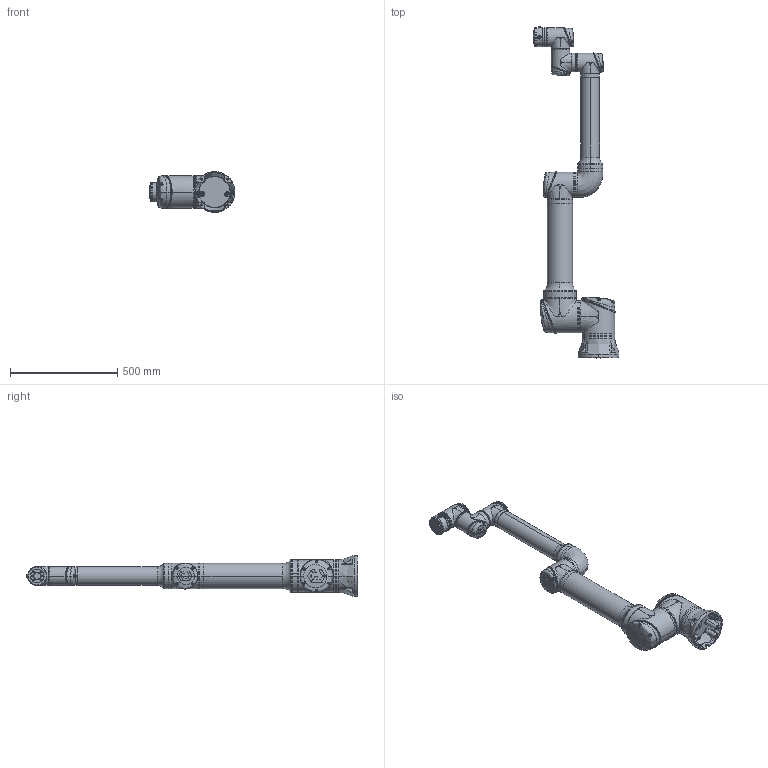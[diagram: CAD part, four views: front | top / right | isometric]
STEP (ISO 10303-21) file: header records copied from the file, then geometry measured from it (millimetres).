
FILE_DESCRIPTION (( 'STEP AP203' ), '1' );
FILE_NAME ('CS_掛极CS612F_V1.1.STEP', '2026-07-27T05:45:13', ( '' ), ( '' ), 'SwSTEP 2.0', 'SolidWorks 2017', '' );
FILE_SCHEMA (( 'CONFIG_CONTROL_DESIGN' ));
Length unit declared in the file: millimetre
Products named in the file (8): CS_掛极CS612F_V1.1; CS612F-J6; CS612F-J5; CS612F-J2_Link1_J3; CS612F-Link2A_Link2B_J4; CS612F-J1; CS612F-Base; CS612F藺傷
Assembly tree (7 placements, depth 2):
  CS_掛极CS612F_V1.1
    CS612F-Base
    CS612F-J1
    CS612F-J2_Link1_J3
    CS612F-Link2A_Link2B_J4
    CS612F-J5
    CS612F-J6
    CS612F藺傷
Bounding box: 401.18 x 1549.5 x 189.7 mm (x, y, z)
Volume: 22379848.4 mm3; surface area: 1415935.9 mm2
Topology: 81 solids, 94 shells, 5434 faces, 12932 edges, 7690 vertices
Faces by surface type: bspline 2020, plane 1405, cylinder 1085, cone 393, torus 326, sphere 205
Entity records: 443935 total; most frequent: CARTESIAN_POINT 335259, ORIENTED_EDGE 25274, DIRECTION 18717, EDGE_CURVE 12637, AXIS2_PLACEMENT_3D 7903, VERTEX_POINT 7644, EDGE_LOOP 5779, FACE_OUTER_BOUND 5434
